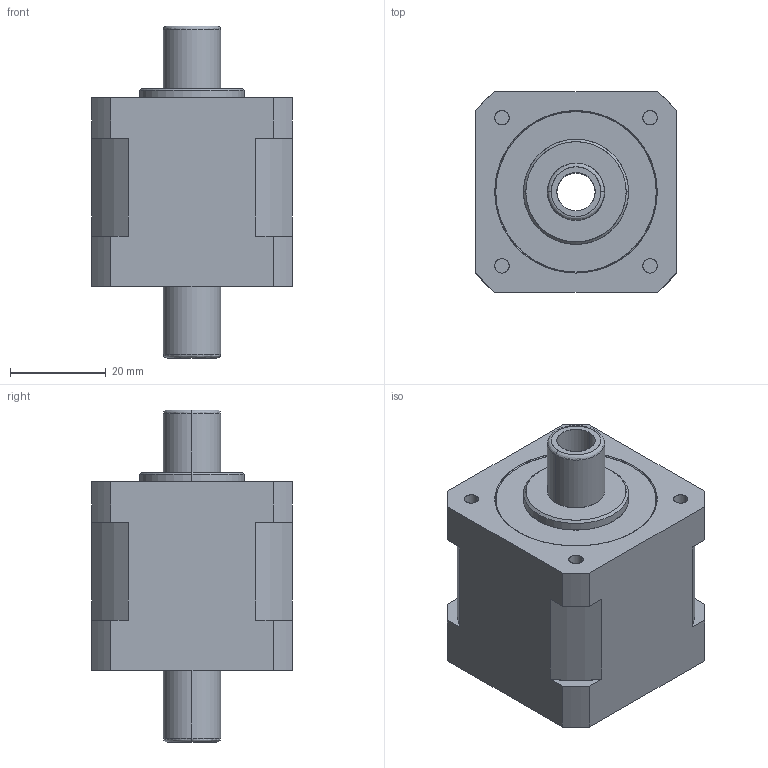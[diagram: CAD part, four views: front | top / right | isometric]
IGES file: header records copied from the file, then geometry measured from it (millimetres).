
Start section: SolidWorks IGES file using analytic representation for surfaces
Bounding box: 42 x 42 x 69.5 mm (x, y, z)
Surface area: 12689.2 mm2 (no closed solid volume)
Topology: 0 solids, 0 shells, 58 faces, 920 edges, 920 vertices
Faces by surface type: revolution 32, bspline 26
